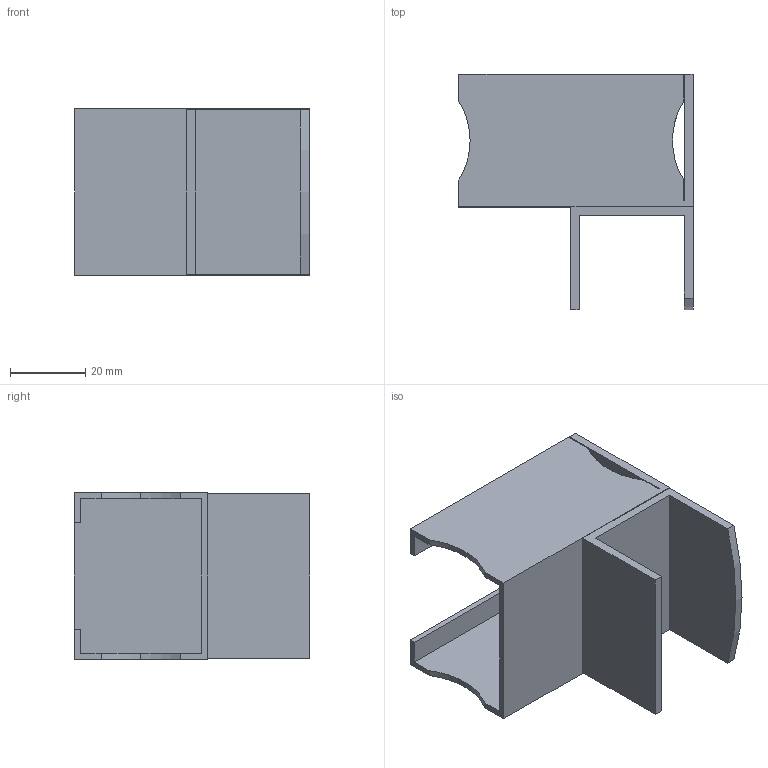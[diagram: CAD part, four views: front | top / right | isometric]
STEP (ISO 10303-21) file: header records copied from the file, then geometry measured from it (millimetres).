
FILE_DESCRIPTION (( 'STEP AP214' ), '1' );
FILE_NAME ('JB-505.step', '2023-12-26T01:20:26', ( 'catia' ), ( 'HP Inc.' ), 'SwSTEP 2.0', 'SolidWorks 2021', '' );
FILE_SCHEMA (( 'AUTOMOTIVE_DESIGN' ));
Length unit declared in the file: millimetre
Products named in the file (1): JB-505
Bounding box: 62.3 x 62.6 x 44.2 mm (x, y, z)
Volume: 23453.6 mm3; surface area: 23359.2 mm2
Topology: 1 solids, 1 shells, 36 faces, 102 edges, 68 vertices
Faces by surface type: plane 29, cylinder 7
Entity records: 1194 total; most frequent: CARTESIAN_POINT 207, ORIENTED_EDGE 204, DIRECTION 190, EDGE_CURVE 102, VECTOR 88, LINE 88, VERTEX_POINT 68, AXIS2_PLACEMENT_3D 51
